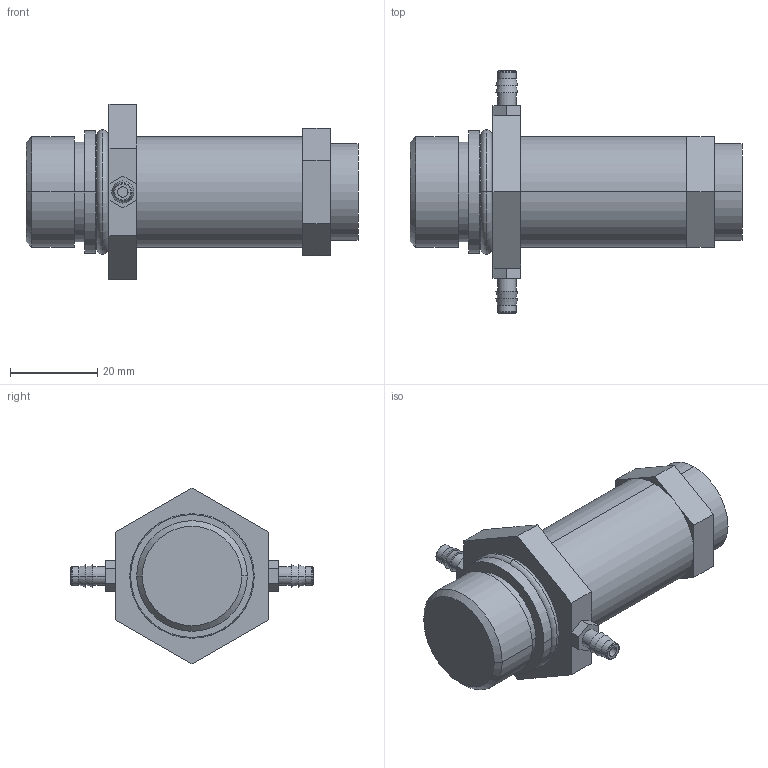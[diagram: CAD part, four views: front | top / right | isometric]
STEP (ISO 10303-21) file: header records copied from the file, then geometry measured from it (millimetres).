
FILE_DESCRIPTION((''),'2;1');
FILE_NAME('UGR2_ASM','2017-08-24T',('jennifer.elliott'),('CenterLine (Windsor) Ltd - Automation Components Division'),'PRO/ENGINEER BY PARAMETRIC TECHNOLOGY CORPORATION, 2015030','PRO/ENGINEER BY PARAMETRIC TECHNOLOGY CORPORATION, 2015030','');
FILE_SCHEMA(('AUTOMOTIVE_DESIGN { 1 0 10303 214 1 1 1 1 }'));
Length unit declared in the file: inch
Products named in the file (8): PRT0181; PRT0182; PRT0183; PRT0184; PRT0185; TMP_DWG-3DSOLID_62; PRT0186; UGR2_ASM
Assembly tree (7 placements, depth 2):
  UGR2_ASM
    PRT0181
    PRT0182
    PRT0183
    PRT0184
    PRT0185
    TMP_DWG-3DSOLID_62
    PRT0186
Bounding box: 76.2 x 55.55 x 40.33 mm (x, y, z)
Volume: 42281.5 mm3; surface area: 13104.3 mm2
Topology: 7 solids, 7 shells, 92 faces, 192 edges, 122 vertices
Faces by surface type: plane 46, cylinder 24, torus 12, cone 10
Entity records: 2978 total; most frequent: DIRECTION 492, CARTESIAN_POINT 443, ORIENTED_EDGE 384, AXIS2_PLACEMENT_3D 193, EDGE_CURVE 192, VERTEX_POINT 122, VECTOR 106, LINE 106
